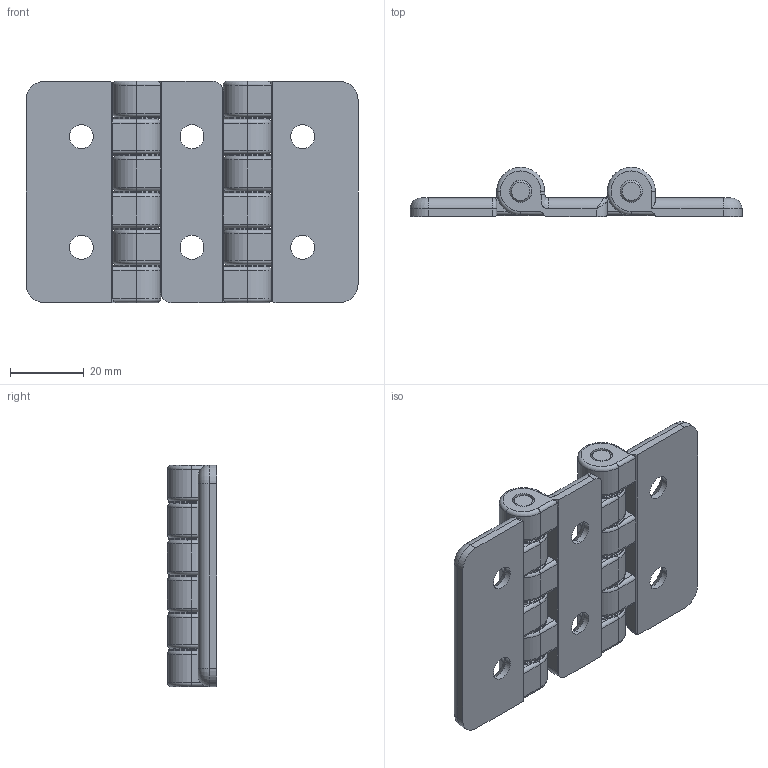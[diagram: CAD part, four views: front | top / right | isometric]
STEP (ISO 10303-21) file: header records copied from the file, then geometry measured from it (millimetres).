
FILE_DESCRIPTION (( 'STEP AP214' ), '1' );
FILE_NAME ('B30 KH-267W-2.STEP', '2012-03-20T06:09:07', ( '' ), ( '' ), 'SwSTEP 2.0', 'SolidWorks 2012', '' );
FILE_SCHEMA (( 'AUTOMOTIVE_DESIGN' ));
Length unit declared in the file: millimetre
Products named in the file (5): KH-267W-2(WASHER); KH-267W-2(PIN); KH-267W-2(BODYA(2)); KH-267W-2(BODY(1)); B30 KH-267W-2
Assembly tree (15 placements, depth 2):
  B30 KH-267W-2
    KH-267W-2(BODY(1))  x2
    KH-267W-2(BODYA(2))
    KH-267W-2(PIN)  x2
    KH-267W-2(WASHER)  x10
Bounding box: 90 x 13.3 x 60 mm (x, y, z)
Volume: 33189.6 mm3; surface area: 22480.3 mm2
Topology: 15 solids, 15 shells, 348 faces, 833 edges, 513 vertices
Faces by surface type: cylinder 177, plane 98, torus 49, cone 20, bspline 4
Entity records: 7067 total; most frequent: CARTESIAN_POINT 1497, DIRECTION 1225, ORIENTED_EDGE 1070, EDGE_CURVE 535, AXIS2_PLACEMENT_3D 488, VERTEX_POINT 326, CIRCLE 257, VECTOR 249
